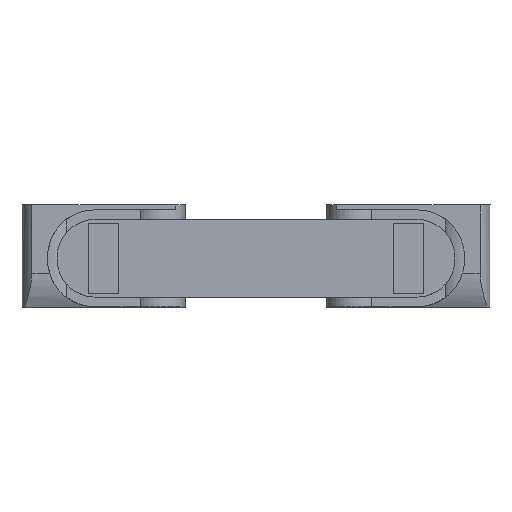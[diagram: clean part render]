
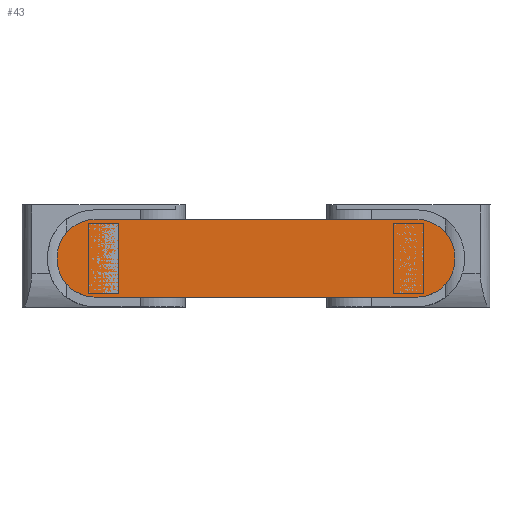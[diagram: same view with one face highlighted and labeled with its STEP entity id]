
A CAD part, left-side view. The second image highlights one B-rep face of the part: STEP entity #43.
In plain terms, the highlighted planar face has unit normal (-1, 0, 0).
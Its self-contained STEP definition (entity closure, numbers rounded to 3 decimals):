
#43 = ADVANCED_FACE('',(#44),#59,.F.);
#44 = FACE_BOUND('',#45,.F.);
#45 = EDGE_LOOP('',(#46,#86,#114,#143,#171,#204,#232,#265));
#46 = ORIENTED_EDGE('',*,*,#47,.F.);
#47 = EDGE_CURVE('',#48,#50,#52,.T.);
#48 = VERTEX_POINT('',#49);
#49 = CARTESIAN_POINT('',(-39.301,38.1,-12.1));
#50 = VERTEX_POINT('',#51);
#51 = CARTESIAN_POINT('',(-39.301,33.1,-17.1));
#52 = SURFACE_CURVE('',#53,(#58,#74),.PCURVE_S1.);
#53 = CIRCLE('',#54,5.);
#54 = AXIS2_PLACEMENT_3D('',#55,#56,#57);
#55 = CARTESIAN_POINT('',(-39.301,33.1,-12.1));
#56 = DIRECTION('',(-1.,0.,0.));
#57 = DIRECTION('',(0.,1.,0.));
#58 = PCURVE('',#59,#64);
#59 = PLANE('',#60);
#60 = AXIS2_PLACEMENT_3D('',#61,#62,#63);
#61 = CARTESIAN_POINT('',(-39.301,-14.1,-17.1));
#62 = DIRECTION('',(1.,0.,-0.));
#63 = DIRECTION('',(0.,0.,1.));
#64 = DEFINITIONAL_REPRESENTATION('',(#65),#73);
#65 = ( BOUNDED_CURVE() B_SPLINE_CURVE(2,(#66,#67,#68,#69,#70,#71,#72),
.UNSPECIFIED.,.T.,.F.) B_SPLINE_CURVE_WITH_KNOTS((1,2,2,2,2,1),(
    -2.094,0.,2.094,4.189,6.283,
8.378),.UNSPECIFIED.) CURVE() GEOMETRIC_REPRESENTATION_ITEM() 
RATIONAL_B_SPLINE_CURVE((1.,0.5,1.,0.5,1.,0.5,1.)) REPRESENTATION_ITEM(
  '') );
#66 = CARTESIAN_POINT('',(5.,-52.2));
#67 = CARTESIAN_POINT('',(-3.66,-52.2));
#68 = CARTESIAN_POINT('',(0.67,-44.7));
#69 = CARTESIAN_POINT('',(5.,-37.2));
#70 = CARTESIAN_POINT('',(9.33,-44.7));
#71 = CARTESIAN_POINT('',(13.66,-52.2));
#72 = CARTESIAN_POINT('',(5.,-52.2));
#73 = ( GEOMETRIC_REPRESENTATION_CONTEXT(2) 
PARAMETRIC_REPRESENTATION_CONTEXT() REPRESENTATION_CONTEXT('2D SPACE',''
  ) );
#74 = PCURVE('',#75,#80);
#75 = CYLINDRICAL_SURFACE('',#76,5.);
#76 = AXIS2_PLACEMENT_3D('',#77,#78,#79);
#77 = CARTESIAN_POINT('',(-39.301,33.1,-12.1));
#78 = DIRECTION('',(1.,0.,-0.));
#79 = DIRECTION('',(0.,1.,0.));
#80 = DEFINITIONAL_REPRESENTATION('',(#81),#85);
#81 = LINE('',#82,#83);
#82 = CARTESIAN_POINT('',(-0.,0.));
#83 = VECTOR('',#84,1.);
#84 = DIRECTION('',(-1.,0.));
#85 = ( GEOMETRIC_REPRESENTATION_CONTEXT(2) 
PARAMETRIC_REPRESENTATION_CONTEXT() REPRESENTATION_CONTEXT('2D SPACE',''
  ) );
#86 = ORIENTED_EDGE('',*,*,#87,.T.);
#87 = EDGE_CURVE('',#48,#88,#90,.T.);
#88 = VERTEX_POINT('',#89);
#89 = CARTESIAN_POINT('',(-39.301,38.1,-11.9));
#90 = SURFACE_CURVE('',#91,(#95,#102),.PCURVE_S1.);
#91 = LINE('',#92,#93);
#92 = CARTESIAN_POINT('',(-39.301,38.1,-17.1));
#93 = VECTOR('',#94,1.);
#94 = DIRECTION('',(0.,0.,1.));
#95 = PCURVE('',#59,#96);
#96 = DEFINITIONAL_REPRESENTATION('',(#97),#101);
#97 = LINE('',#98,#99);
#98 = CARTESIAN_POINT('',(0.,-52.2));
#99 = VECTOR('',#100,1.);
#100 = DIRECTION('',(1.,0.));
#101 = ( GEOMETRIC_REPRESENTATION_CONTEXT(2) 
PARAMETRIC_REPRESENTATION_CONTEXT() REPRESENTATION_CONTEXT('2D SPACE',''
  ) );
#102 = PCURVE('',#103,#108);
#103 = PLANE('',#104);
#104 = AXIS2_PLACEMENT_3D('',#105,#106,#107);
#105 = CARTESIAN_POINT('',(-39.301,38.1,-17.1));
#106 = DIRECTION('',(-0.,1.,0.));
#107 = DIRECTION('',(0.,0.,1.));
#108 = DEFINITIONAL_REPRESENTATION('',(#109),#113);
#109 = LINE('',#110,#111);
#110 = CARTESIAN_POINT('',(0.,0.));
#111 = VECTOR('',#112,1.);
#112 = DIRECTION('',(1.,0.));
#113 = ( GEOMETRIC_REPRESENTATION_CONTEXT(2) 
PARAMETRIC_REPRESENTATION_CONTEXT() REPRESENTATION_CONTEXT('2D SPACE',''
  ) );
#114 = ORIENTED_EDGE('',*,*,#115,.T.);
#115 = EDGE_CURVE('',#88,#116,#118,.T.);
#116 = VERTEX_POINT('',#117);
#117 = CARTESIAN_POINT('',(-39.301,33.1,-6.9));
#118 = SURFACE_CURVE('',#119,(#124,#131),.PCURVE_S1.);
#119 = CIRCLE('',#120,5.);
#120 = AXIS2_PLACEMENT_3D('',#121,#122,#123);
#121 = CARTESIAN_POINT('',(-39.301,33.1,-11.9));
#122 = DIRECTION('',(1.,0.,-0.));
#123 = DIRECTION('',(0.,0.,1.));
#124 = PCURVE('',#59,#125);
#125 = DEFINITIONAL_REPRESENTATION('',(#126),#130);
#126 = CIRCLE('',#127,5.);
#127 = AXIS2_PLACEMENT_2D('',#128,#129);
#128 = CARTESIAN_POINT('',(5.2,-47.2));
#129 = DIRECTION('',(1.,0.));
#130 = ( GEOMETRIC_REPRESENTATION_CONTEXT(2) 
PARAMETRIC_REPRESENTATION_CONTEXT() REPRESENTATION_CONTEXT('2D SPACE',''
  ) );
#131 = PCURVE('',#132,#137);
#132 = CYLINDRICAL_SURFACE('',#133,5.);
#133 = AXIS2_PLACEMENT_3D('',#134,#135,#136);
#134 = CARTESIAN_POINT('',(-39.301,33.1,-11.9));
#135 = DIRECTION('',(1.,0.,-0.));
#136 = DIRECTION('',(0.,1.,0.));
#137 = DEFINITIONAL_REPRESENTATION('',(#138),#142);
#138 = LINE('',#139,#140);
#139 = CARTESIAN_POINT('',(-4.712,0.));
#140 = VECTOR('',#141,1.);
#141 = DIRECTION('',(1.,0.));
#142 = ( GEOMETRIC_REPRESENTATION_CONTEXT(2) 
PARAMETRIC_REPRESENTATION_CONTEXT() REPRESENTATION_CONTEXT('2D SPACE',''
  ) );
#143 = ORIENTED_EDGE('',*,*,#144,.F.);
#144 = EDGE_CURVE('',#145,#116,#147,.T.);
#145 = VERTEX_POINT('',#146);
#146 = CARTESIAN_POINT('',(-39.301,-9.1,-6.9));
#147 = SURFACE_CURVE('',#148,(#152,#159),.PCURVE_S1.);
#148 = LINE('',#149,#150);
#149 = CARTESIAN_POINT('',(-39.301,-14.1,-6.9));
#150 = VECTOR('',#151,1.);
#151 = DIRECTION('',(-0.,1.,0.));
#152 = PCURVE('',#59,#153);
#153 = DEFINITIONAL_REPRESENTATION('',(#154),#158);
#154 = LINE('',#155,#156);
#155 = CARTESIAN_POINT('',(10.2,0.));
#156 = VECTOR('',#157,1.);
#157 = DIRECTION('',(0.,-1.));
#158 = ( GEOMETRIC_REPRESENTATION_CONTEXT(2) 
PARAMETRIC_REPRESENTATION_CONTEXT() REPRESENTATION_CONTEXT('2D SPACE',''
  ) );
#159 = PCURVE('',#160,#165);
#160 = PLANE('',#161);
#161 = AXIS2_PLACEMENT_3D('',#162,#163,#164);
#162 = CARTESIAN_POINT('',(-39.301,-14.1,-6.9));
#163 = DIRECTION('',(0.,0.,1.));
#164 = DIRECTION('',(1.,0.,-0.));
#165 = DEFINITIONAL_REPRESENTATION('',(#166),#170);
#166 = LINE('',#167,#168);
#167 = CARTESIAN_POINT('',(0.,0.));
#168 = VECTOR('',#169,1.);
#169 = DIRECTION('',(0.,1.));
#170 = ( GEOMETRIC_REPRESENTATION_CONTEXT(2) 
PARAMETRIC_REPRESENTATION_CONTEXT() REPRESENTATION_CONTEXT('2D SPACE',''
  ) );
#171 = ORIENTED_EDGE('',*,*,#172,.F.);
#172 = EDGE_CURVE('',#173,#145,#175,.T.);
#173 = VERTEX_POINT('',#174);
#174 = CARTESIAN_POINT('',(-39.301,-14.1,-11.9));
#175 = SURFACE_CURVE('',#176,(#181,#192),.PCURVE_S1.);
#176 = CIRCLE('',#177,5.);
#177 = AXIS2_PLACEMENT_3D('',#178,#179,#180);
#178 = CARTESIAN_POINT('',(-39.301,-9.1,-11.9));
#179 = DIRECTION('',(-1.,-0.,0.));
#180 = DIRECTION('',(0.,0.,1.));
#181 = PCURVE('',#59,#182);
#182 = DEFINITIONAL_REPRESENTATION('',(#183),#191);
#183 = ( BOUNDED_CURVE() B_SPLINE_CURVE(2,(#184,#185,#186,#187,#188,#189
,#190),.UNSPECIFIED.,.T.,.F.) B_SPLINE_CURVE_WITH_KNOTS((1,2,2,2,2,1),(
    -2.094,0.,2.094,4.189,6.283,
8.378),.UNSPECIFIED.) CURVE() GEOMETRIC_REPRESENTATION_ITEM() 
RATIONAL_B_SPLINE_CURVE((1.,0.5,1.,0.5,1.,0.5,1.)) REPRESENTATION_ITEM(
  '') );
#184 = CARTESIAN_POINT('',(10.2,-5.));
#185 = CARTESIAN_POINT('',(10.2,-13.66));
#186 = CARTESIAN_POINT('',(2.7,-9.33));
#187 = CARTESIAN_POINT('',(-4.8,-5.));
#188 = CARTESIAN_POINT('',(2.7,-0.67));
#189 = CARTESIAN_POINT('',(10.2,3.66));
#190 = CARTESIAN_POINT('',(10.2,-5.));
#191 = ( GEOMETRIC_REPRESENTATION_CONTEXT(2) 
PARAMETRIC_REPRESENTATION_CONTEXT() REPRESENTATION_CONTEXT('2D SPACE',''
  ) );
#192 = PCURVE('',#193,#198);
#193 = CYLINDRICAL_SURFACE('',#194,5.);
#194 = AXIS2_PLACEMENT_3D('',#195,#196,#197);
#195 = CARTESIAN_POINT('',(-39.301,-9.1,-11.9));
#196 = DIRECTION('',(1.,0.,-0.));
#197 = DIRECTION('',(0.,-1.,0.));
#198 = DEFINITIONAL_REPRESENTATION('',(#199),#203);
#199 = LINE('',#200,#201);
#200 = CARTESIAN_POINT('',(4.712,-0.));
#201 = VECTOR('',#202,1.);
#202 = DIRECTION('',(-1.,0.));
#203 = ( GEOMETRIC_REPRESENTATION_CONTEXT(2) 
PARAMETRIC_REPRESENTATION_CONTEXT() REPRESENTATION_CONTEXT('2D SPACE',''
  ) );
#204 = ORIENTED_EDGE('',*,*,#205,.F.);
#205 = EDGE_CURVE('',#206,#173,#208,.T.);
#206 = VERTEX_POINT('',#207);
#207 = CARTESIAN_POINT('',(-39.301,-14.1,-12.1));
#208 = SURFACE_CURVE('',#209,(#213,#220),.PCURVE_S1.);
#209 = LINE('',#210,#211);
#210 = CARTESIAN_POINT('',(-39.301,-14.1,-17.1));
#211 = VECTOR('',#212,1.);
#212 = DIRECTION('',(0.,0.,1.));
#213 = PCURVE('',#59,#214);
#214 = DEFINITIONAL_REPRESENTATION('',(#215),#219);
#215 = LINE('',#216,#217);
#216 = CARTESIAN_POINT('',(0.,0.));
#217 = VECTOR('',#218,1.);
#218 = DIRECTION('',(1.,0.));
#219 = ( GEOMETRIC_REPRESENTATION_CONTEXT(2) 
PARAMETRIC_REPRESENTATION_CONTEXT() REPRESENTATION_CONTEXT('2D SPACE',''
  ) );
#220 = PCURVE('',#221,#226);
#221 = PLANE('',#222);
#222 = AXIS2_PLACEMENT_3D('',#223,#224,#225);
#223 = CARTESIAN_POINT('',(-39.301,-14.1,-17.1));
#224 = DIRECTION('',(-0.,1.,0.));
#225 = DIRECTION('',(0.,0.,1.));
#226 = DEFINITIONAL_REPRESENTATION('',(#227),#231);
#227 = LINE('',#228,#229);
#228 = CARTESIAN_POINT('',(0.,0.));
#229 = VECTOR('',#230,1.);
#230 = DIRECTION('',(1.,0.));
#231 = ( GEOMETRIC_REPRESENTATION_CONTEXT(2) 
PARAMETRIC_REPRESENTATION_CONTEXT() REPRESENTATION_CONTEXT('2D SPACE',''
  ) );
#232 = ORIENTED_EDGE('',*,*,#233,.F.);
#233 = EDGE_CURVE('',#234,#206,#236,.T.);
#234 = VERTEX_POINT('',#235);
#235 = CARTESIAN_POINT('',(-39.301,-9.1,-17.1));
#236 = SURFACE_CURVE('',#237,(#242,#253),.PCURVE_S1.);
#237 = CIRCLE('',#238,5.);
#238 = AXIS2_PLACEMENT_3D('',#239,#240,#241);
#239 = CARTESIAN_POINT('',(-39.301,-9.1,-12.1));
#240 = DIRECTION('',(-1.,0.,-0.));
#241 = DIRECTION('',(0.,0.,-1.));
#242 = PCURVE('',#59,#243);
#243 = DEFINITIONAL_REPRESENTATION('',(#244),#252);
#244 = ( BOUNDED_CURVE() B_SPLINE_CURVE(2,(#245,#246,#247,#248,#249,#250
,#251),.UNSPECIFIED.,.T.,.F.) B_SPLINE_CURVE_WITH_KNOTS((1,2,2,2,2,1),(
    -2.094,0.,2.094,4.189,6.283,
8.378),.UNSPECIFIED.) CURVE() GEOMETRIC_REPRESENTATION_ITEM() 
RATIONAL_B_SPLINE_CURVE((1.,0.5,1.,0.5,1.,0.5,1.)) REPRESENTATION_ITEM(
  '') );
#245 = CARTESIAN_POINT('',(0.,-5.));
#246 = CARTESIAN_POINT('',(0.,3.66));
#247 = CARTESIAN_POINT('',(7.5,-0.67));
#248 = CARTESIAN_POINT('',(15.,-5.));
#249 = CARTESIAN_POINT('',(7.5,-9.33));
#250 = CARTESIAN_POINT('',(0.,-13.66));
#251 = CARTESIAN_POINT('',(0.,-5.));
#252 = ( GEOMETRIC_REPRESENTATION_CONTEXT(2) 
PARAMETRIC_REPRESENTATION_CONTEXT() REPRESENTATION_CONTEXT('2D SPACE',''
  ) );
#253 = PCURVE('',#254,#259);
#254 = CYLINDRICAL_SURFACE('',#255,5.);
#255 = AXIS2_PLACEMENT_3D('',#256,#257,#258);
#256 = CARTESIAN_POINT('',(-39.301,-9.1,-12.1));
#257 = DIRECTION('',(1.,0.,-0.));
#258 = DIRECTION('',(0.,-1.,0.));
#259 = DEFINITIONAL_REPRESENTATION('',(#260),#264);
#260 = LINE('',#261,#262);
#261 = CARTESIAN_POINT('',(1.571,0.));
#262 = VECTOR('',#263,1.);
#263 = DIRECTION('',(-1.,-0.));
#264 = ( GEOMETRIC_REPRESENTATION_CONTEXT(2) 
PARAMETRIC_REPRESENTATION_CONTEXT() REPRESENTATION_CONTEXT('2D SPACE',''
  ) );
#265 = ORIENTED_EDGE('',*,*,#266,.T.);
#266 = EDGE_CURVE('',#234,#50,#267,.T.);
#267 = SURFACE_CURVE('',#268,(#272,#279),.PCURVE_S1.);
#268 = LINE('',#269,#270);
#269 = CARTESIAN_POINT('',(-39.301,-14.1,-17.1));
#270 = VECTOR('',#271,1.);
#271 = DIRECTION('',(-0.,1.,0.));
#272 = PCURVE('',#59,#273);
#273 = DEFINITIONAL_REPRESENTATION('',(#274),#278);
#274 = LINE('',#275,#276);
#275 = CARTESIAN_POINT('',(0.,0.));
#276 = VECTOR('',#277,1.);
#277 = DIRECTION('',(0.,-1.));
#278 = ( GEOMETRIC_REPRESENTATION_CONTEXT(2) 
PARAMETRIC_REPRESENTATION_CONTEXT() REPRESENTATION_CONTEXT('2D SPACE',''
  ) );
#279 = PCURVE('',#280,#285);
#280 = PLANE('',#281);
#281 = AXIS2_PLACEMENT_3D('',#282,#283,#284);
#282 = CARTESIAN_POINT('',(-39.301,-14.1,-17.1));
#283 = DIRECTION('',(0.,0.,1.));
#284 = DIRECTION('',(1.,0.,-0.));
#285 = DEFINITIONAL_REPRESENTATION('',(#286),#290);
#286 = LINE('',#287,#288);
#287 = CARTESIAN_POINT('',(0.,0.));
#288 = VECTOR('',#289,1.);
#289 = DIRECTION('',(0.,1.));
#290 = ( GEOMETRIC_REPRESENTATION_CONTEXT(2) 
PARAMETRIC_REPRESENTATION_CONTEXT() REPRESENTATION_CONTEXT('2D SPACE',''
  ) );
